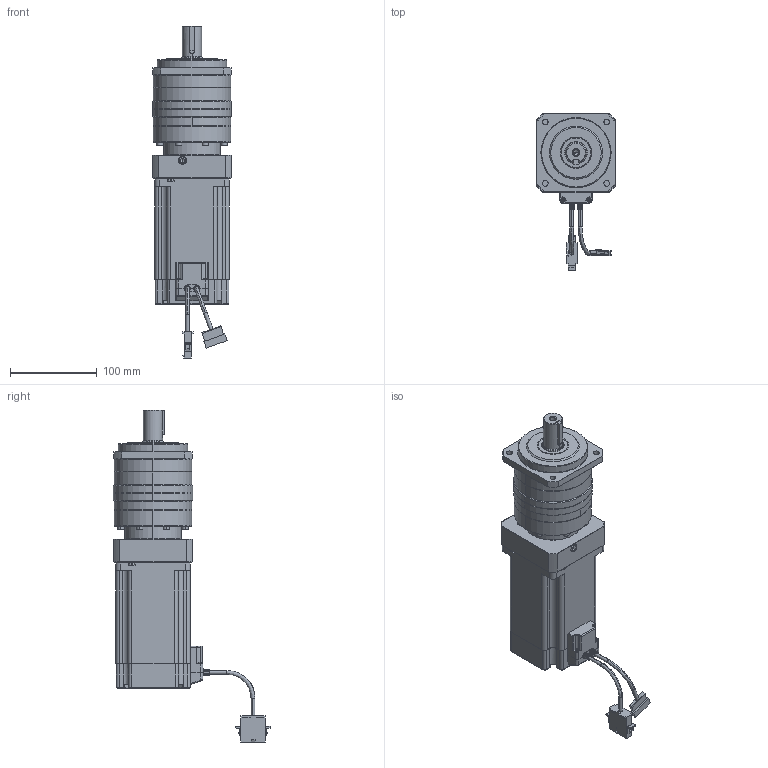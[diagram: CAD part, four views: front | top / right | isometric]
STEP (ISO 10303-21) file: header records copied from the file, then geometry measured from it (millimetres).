
FILE_DESCRIPTION (( 'STEP AP203' ), '1' );
FILE_NAME ('130416 Ezi-SERVO PG-ST-86L-PN15~50.STEP', '2013-04-16T08:33:07', ( '' ), ( '' ), 'SwSTEP 2.0', 'SolidWorks 2012', '' );
FILE_SCHEMA (( 'CONFIG_CONTROL_DESIGN' ));
Length unit declared in the file: metre
Products named in the file (15): 130416 Ezi-SERVO PG-ST-86L-PN15~50; ST86 2ST; Main_EzM-86M-assembly___-1; Main_EZSV_86_cable_Cover___-1; Main_EZSV_86_Encoder_Cover___-1; Main_M3-screw6___-1; Main_M3-screw1___-1; Main_M3-screw4___-1; Main_M3-screw2___-1; Main_M3-screw3___-1; Main_M3-screw5___-1; Main_EzM-86M___-1; Main_86_Encoder_Plate___-1; Main_Power Cable 86___-1; Main_connector_e___-1
Assembly tree (14 placements, depth 3):
  130416 Ezi-SERVO PG-ST-86L-PN15~50
    Main_EzM-86M-assembly___-1
      Main_connector_e___-1
      Main_Power Cable 86___-1
      Main_86_Encoder_Plate___-1
      Main_EzM-86M___-1
      Main_M3-screw5___-1
      Main_M3-screw3___-1
      Main_M3-screw2___-1
      Main_M3-screw4___-1
      Main_M3-screw1___-1
      Main_M3-screw6___-1
      Main_EZSV_86_Encoder_Cover___-1
      Main_EZSV_86_cable_Cover___-1
    ST86 2ST
Bounding box: 91 x 180.75 x 382 mm (x, y, z)
Volume: 1655067.3 mm3; surface area: 195411.7 mm2
Topology: 13 solids, 13 shells, 1355 faces, 3500 edges, 2209 vertices
Faces by surface type: plane 718, cylinder 419, cone 117, bspline 56, torus 45
Entity records: 47363 total; most frequent: CARTESIAN_POINT 13168, ORIENTED_EDGE 6856, DIRECTION 6689, EDGE_CURVE 3428, AXIS2_PLACEMENT_3D 2364, VERTEX_POINT 2209, VECTOR 1961, LINE 1961
